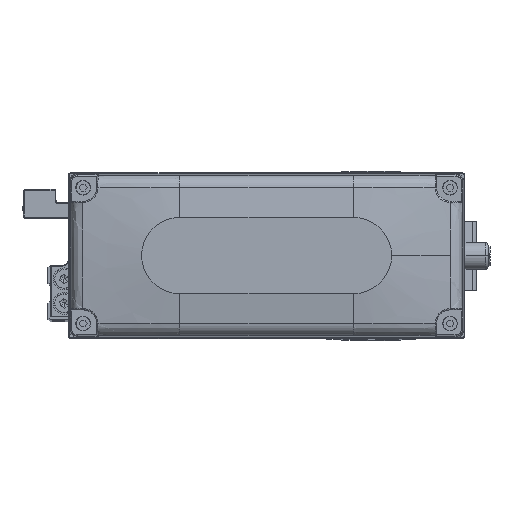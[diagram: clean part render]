
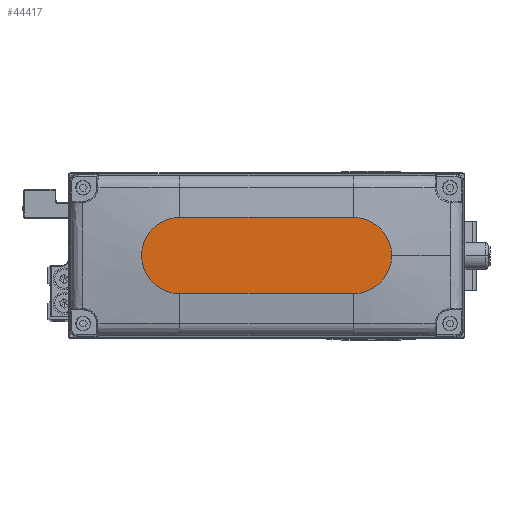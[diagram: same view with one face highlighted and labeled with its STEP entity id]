
A CAD part, top view. The second image highlights one B-rep face of the part: STEP entity #44417.
In plain terms, the highlighted planar face has unit normal (0, 0, 1).
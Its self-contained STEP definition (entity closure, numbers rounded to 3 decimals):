
#439 = DIRECTION ( 'NONE',  ( 1., 0., 0. ) ) ;
#1306 = ORIENTED_EDGE ( 'NONE', *, *, #22659, .T. ) ;
#3787 = ORIENTED_EDGE ( 'NONE', *, *, #9433, .T. ) ;
#4207 = LINE ( 'NONE', #18057, #22692 ) ;
#4296 = DIRECTION ( 'NONE',  ( 1., 0., 0. ) ) ;
#5022 = VERTEX_POINT ( 'NONE', #10577 ) ;
#5431 = DIRECTION ( 'NONE',  ( 1., 0., 0. ) ) ;
#5731 = AXIS2_PLACEMENT_3D ( 'NONE', #21527, #35373, #4296 ) ;
#7004 = ORIENTED_EDGE ( 'NONE', *, *, #38834, .T. ) ;
#7178 = AXIS2_PLACEMENT_3D ( 'NONE', #11696, #22095, #35933 ) ;
#7702 = PLANE ( 'NONE',  #5731 ) ;
#9433 = EDGE_CURVE ( 'NONE', #38861, #5022, #4207, .T. ) ;
#10577 = CARTESIAN_POINT ( 'NONE',  ( -32., 14., 35. ) ) ;
#10591 = CARTESIAN_POINT ( 'NONE',  ( 32., -14., 35. ) ) ;
#11087 = VERTEX_POINT ( 'NONE', #27840 ) ;
#11092 = VERTEX_POINT ( 'NONE', #10591 ) ;
#11696 = CARTESIAN_POINT ( 'NONE',  ( 32., 0., 35. ) ) ;
#11892 = DIRECTION ( 'NONE',  ( 0., 0., 1. ) ) ;
#11904 = CARTESIAN_POINT ( 'NONE',  ( 32., 14., 35. ) ) ;
#12947 = AXIS2_PLACEMENT_3D ( 'NONE', #42973, #11892, #25716 ) ;
#13131 = ORIENTED_EDGE ( 'NONE', *, *, #15532, .T. ) ;
#15532 = EDGE_CURVE ( 'NONE', #5022, #11087, #16393, .T. ) ;
#16393 = CIRCLE ( 'NONE', #41754, 14. ) ;
#17681 = LINE ( 'NONE', #31519, #39763 ) ;
#18057 = CARTESIAN_POINT ( 'NONE',  ( -32., 14., 35. ) ) ;
#21527 = CARTESIAN_POINT ( 'NONE',  ( 0., 0., 35. ) ) ;
#22095 = DIRECTION ( 'NONE',  ( 0., 0., 1. ) ) ;
#22659 = EDGE_CURVE ( 'NONE', #44717, #38861, #32511, .T. ) ;
#22681 = CARTESIAN_POINT ( 'NONE',  ( -32., 0., 35. ) ) ;
#22692 = VECTOR ( 'NONE', #31898, 1000. ) ;
#24577 = EDGE_CURVE ( 'NONE', #11087, #11092, #17681, .T. ) ;
#25716 = DIRECTION ( 'NONE',  ( 1., 0., 0. ) ) ;
#26727 = CIRCLE ( 'NONE', #7178, 14. ) ;
#27840 = CARTESIAN_POINT ( 'NONE',  ( -32., -14., 35. ) ) ;
#29701 = ORIENTED_EDGE ( 'NONE', *, *, #24577, .T. ) ;
#31519 = CARTESIAN_POINT ( 'NONE',  ( -32., -14., 35. ) ) ;
#31898 = DIRECTION ( 'NONE',  ( -1., 0., 0. ) ) ;
#32009 = EDGE_LOOP ( 'NONE', ( #3787, #13131, #29701, #7004, #1306 ) ) ;
#32511 = CIRCLE ( 'NONE', #12947, 14. ) ;
#35373 = DIRECTION ( 'NONE',  ( 0., 0., 1. ) ) ;
#35933 = DIRECTION ( 'NONE',  ( 1., 0., 0. ) ) ;
#36511 = DIRECTION ( 'NONE',  ( 0., 0., 1. ) ) ;
#37844 = CARTESIAN_POINT ( 'NONE',  ( 46., 0., 35. ) ) ;
#38784 = FACE_OUTER_BOUND ( 'NONE', #32009, .T. ) ;
#38834 = EDGE_CURVE ( 'NONE', #11092, #44717, #26727, .T. ) ;
#38861 = VERTEX_POINT ( 'NONE', #11904 ) ;
#39763 = VECTOR ( 'NONE', #439, 1000. ) ;
#41754 = AXIS2_PLACEMENT_3D ( 'NONE', #22681, #36511, #5431 ) ;
#42973 = CARTESIAN_POINT ( 'NONE',  ( 32., 0., 35. ) ) ;
#44417 = ADVANCED_FACE ( 'NONE', ( #38784 ), #7702, .T. ) ;
#44717 = VERTEX_POINT ( 'NONE', #37844 ) ;
